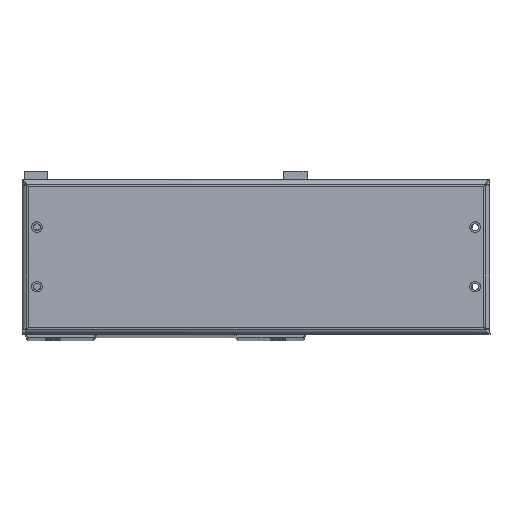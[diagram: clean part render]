
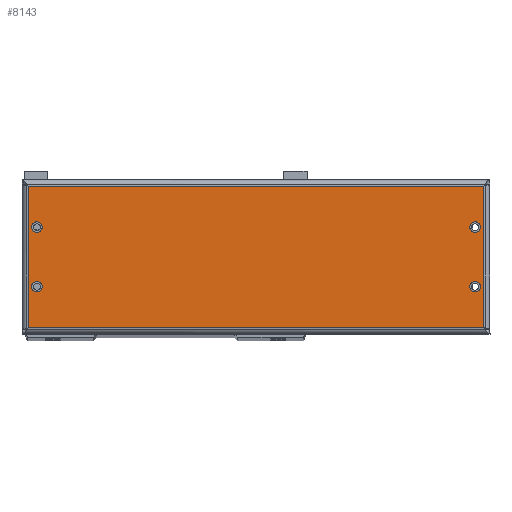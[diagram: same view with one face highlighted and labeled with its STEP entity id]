
A CAD part, top view. The second image highlights one B-rep face of the part: STEP entity #8143.
In plain terms, the highlighted planar face has unit normal (0, 0, 1) as drawn and (0, 0, -1) by its records, which use the part's own axes.
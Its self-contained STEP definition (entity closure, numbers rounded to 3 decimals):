
#681 = CARTESIAN_POINT ( 'NONE',  ( 2817.591, 251.134, -52. ) ) ;
#1110 = CARTESIAN_POINT ( 'NONE',  ( 3023.591, 251.134, -52. ) ) ;
#2294 = DIRECTION ( 'NONE',  ( 0., 0., -1. ) ) ;
#3059 = CIRCLE ( 'NONE', #20842, 2.5 ) ;
#3170 = AXIS2_PLACEMENT_3D ( 'NONE', #21371, #27139, #32349 ) ;
#3173 = ORIENTED_EDGE ( 'NONE', *, *, #12123, .F. ) ;
#3651 = CARTESIAN_POINT ( 'NONE',  ( 2812.944, 298.384, -52. ) ) ;
#3720 = EDGE_CURVE ( 'NONE', #21665, #14168, #3816, .T. ) ;
#3816 = CIRCLE ( 'NONE', #3170, 2.5 ) ;
#4063 = CARTESIAN_POINT ( 'NONE',  ( 2813.591, 298.384, -52. ) ) ;
#4303 = EDGE_LOOP ( 'NONE', ( #11577, #27996 ) ) ;
#4792 = CARTESIAN_POINT ( 'NONE',  ( 2920.591, 265.134, -52. ) ) ;
#4815 = CARTESIAN_POINT ( 'NONE',  ( 2813.591, 231.238, -52. ) ) ;
#5076 = AXIS2_PLACEMENT_3D ( 'NONE', #32313, #35192, #7673 ) ;
#5263 = ORIENTED_EDGE ( 'NONE', *, *, #18135, .F. ) ;
#5394 = CARTESIAN_POINT ( 'NONE',  ( 3023.591, 276.634, -52. ) ) ;
#5783 = EDGE_LOOP ( 'NONE', ( #23558, #6451 ) ) ;
#6117 = LINE ( 'NONE', #23179, #23961 ) ;
#6270 = CARTESIAN_POINT ( 'NONE',  ( 2817.591, 253.634, -52. ) ) ;
#6404 = DIRECTION ( 'NONE',  ( 0., -1., 0. ) ) ;
#6451 = ORIENTED_EDGE ( 'NONE', *, *, #30717, .F. ) ;
#6905 = VERTEX_POINT ( 'NONE', #6270 ) ;
#7169 = AXIS2_PLACEMENT_3D ( 'NONE', #15031, #31051, #6404 ) ;
#7568 = CARTESIAN_POINT ( 'NONE',  ( 2817.591, 281.634, -52. ) ) ;
#7673 = DIRECTION ( 'NONE',  ( 0., -1., 0. ) ) ;
#8131 = ORIENTED_EDGE ( 'NONE', *, *, #17867, .T. ) ;
#8143 = ADVANCED_FACE ( 'NONE', ( #33132, #29277, #17616, #35035, #26755 ), #29623, .T. ) ;
#8405 = EDGE_LOOP ( 'NONE', ( #31715, #3173 ) ) ;
#8921 = ORIENTED_EDGE ( 'NONE', *, *, #19634, .T. ) ;
#8961 = DIRECTION ( 'NONE',  ( 0., 0., -1. ) ) ;
#9486 = DIRECTION ( 'NONE',  ( 0., -1., 0. ) ) ;
#10400 = ORIENTED_EDGE ( 'NONE', *, *, #16458, .T. ) ;
#11218 = DIRECTION ( 'NONE',  ( 1., 0., 0. ) ) ;
#11245 = CARTESIAN_POINT ( 'NONE',  ( 3023.591, 279.134, -52. ) ) ;
#11393 = CIRCLE ( 'NONE', #5076, 2.5 ) ;
#11577 = ORIENTED_EDGE ( 'NONE', *, *, #11869, .F. ) ;
#11704 = DIRECTION ( 'NONE',  ( 0., -1., 0. ) ) ;
#11869 = EDGE_CURVE ( 'NONE', #30863, #6905, #33191, .T. ) ;
#12123 = EDGE_CURVE ( 'NONE', #14168, #21665, #11393, .T. ) ;
#12418 = CARTESIAN_POINT ( 'NONE',  ( 2817.591, 276.634, -52. ) ) ;
#12424 = ORIENTED_EDGE ( 'NONE', *, *, #20870, .F. ) ;
#12935 = CIRCLE ( 'NONE', #19227, 2.5 ) ;
#13949 = CARTESIAN_POINT ( 'NONE',  ( 3023.591, 248.634, -52. ) ) ;
#14168 = VERTEX_POINT ( 'NONE', #7568 ) ;
#14403 = VERTEX_POINT ( 'NONE', #5394 ) ;
#14742 = VERTEX_POINT ( 'NONE', #13949 ) ;
#14789 = DIRECTION ( 'NONE',  ( 0., 0., -1. ) ) ;
#15031 = CARTESIAN_POINT ( 'NONE',  ( 2817.591, 251.134, -52. ) ) ;
#15150 = VERTEX_POINT ( 'NONE', #19088 ) ;
#16458 = EDGE_CURVE ( 'NONE', #23011, #15150, #22701, .T. ) ;
#16807 = EDGE_CURVE ( 'NONE', #26709, #23011, #6117, .T. ) ;
#17109 = DIRECTION ( 'NONE',  ( 0., 0., -1. ) ) ;
#17616 = FACE_BOUND ( 'NONE', #5783, .T. ) ;
#17867 = EDGE_CURVE ( 'NONE', #33526, #26709, #27951, .T. ) ;
#18135 = EDGE_CURVE ( 'NONE', #32164, #14742, #3059, .T. ) ;
#18620 = DIRECTION ( 'NONE',  ( 0., -1., 0. ) ) ;
#18643 = LINE ( 'NONE', #4815, #18695 ) ;
#18681 = CIRCLE ( 'NONE', #30182, 2.5 ) ;
#18695 = VECTOR ( 'NONE', #26779, 1000. ) ;
#18997 = CARTESIAN_POINT ( 'NONE',  ( 3027.591, 231.884, -52. ) ) ;
#19088 = CARTESIAN_POINT ( 'NONE',  ( 2813.591, 231.884, -52. ) ) ;
#19227 = AXIS2_PLACEMENT_3D ( 'NONE', #11245, #33377, #29964 ) ;
#19454 = CARTESIAN_POINT ( 'NONE',  ( 3023.591, 279.134, -52. ) ) ;
#19634 = EDGE_CURVE ( 'NONE', #15150, #33526, #18643, .T. ) ;
#20326 = EDGE_LOOP ( 'NONE', ( #12424, #5263 ) ) ;
#20713 = AXIS2_PLACEMENT_3D ( 'NONE', #4792, #2294, #18620 ) ;
#20842 = AXIS2_PLACEMENT_3D ( 'NONE', #1110, #14789, #31307 ) ;
#20870 = EDGE_CURVE ( 'NONE', #14742, #32164, #23390, .T. ) ;
#21101 = AXIS2_PLACEMENT_3D ( 'NONE', #681, #8961, #33274 ) ;
#21371 = CARTESIAN_POINT ( 'NONE',  ( 2817.591, 279.134, -52. ) ) ;
#21665 = VERTEX_POINT ( 'NONE', #12418 ) ;
#22234 = CARTESIAN_POINT ( 'NONE',  ( 3023.591, 281.634, -52. ) ) ;
#22529 = ORIENTED_EDGE ( 'NONE', *, *, #16807, .T. ) ;
#22701 = LINE ( 'NONE', #25772, #28627 ) ;
#22815 = DIRECTION ( 'NONE',  ( 0., 0., -1. ) ) ;
#22863 = EDGE_LOOP ( 'NONE', ( #8131, #22529, #10400, #8921 ) ) ;
#23011 = VERTEX_POINT ( 'NONE', #18997 ) ;
#23024 = DIRECTION ( 'NONE',  ( 0., -1., 0. ) ) ;
#23147 = CARTESIAN_POINT ( 'NONE',  ( 3023.591, 251.134, -52. ) ) ;
#23179 = CARTESIAN_POINT ( 'NONE',  ( 3027.591, 299.031, -52. ) ) ;
#23262 = EDGE_CURVE ( 'NONE', #6905, #30863, #35307, .T. ) ;
#23390 = CIRCLE ( 'NONE', #32588, 2.5 ) ;
#23558 = ORIENTED_EDGE ( 'NONE', *, *, #23763, .F. ) ;
#23587 = CARTESIAN_POINT ( 'NONE',  ( 3027.591, 298.384, -52. ) ) ;
#23763 = EDGE_CURVE ( 'NONE', #14403, #30718, #18681, .T. ) ;
#23961 = VECTOR ( 'NONE', #23024, 1000. ) ;
#25772 = CARTESIAN_POINT ( 'NONE',  ( 3028.237, 231.884, -52. ) ) ;
#26709 = VERTEX_POINT ( 'NONE', #23587 ) ;
#26755 = FACE_OUTER_BOUND ( 'NONE', #22863, .T. ) ;
#26779 = DIRECTION ( 'NONE',  ( 0., 1., 0. ) ) ;
#27117 = CARTESIAN_POINT ( 'NONE',  ( 3023.591, 253.634, -52. ) ) ;
#27139 = DIRECTION ( 'NONE',  ( 0., 0., -1. ) ) ;
#27951 = LINE ( 'NONE', #3651, #35518 ) ;
#27977 = CARTESIAN_POINT ( 'NONE',  ( 2817.591, 248.634, -52. ) ) ;
#27996 = ORIENTED_EDGE ( 'NONE', *, *, #23262, .F. ) ;
#28627 = VECTOR ( 'NONE', #33685, 1000. ) ;
#29277 = FACE_BOUND ( 'NONE', #4303, .T. ) ;
#29623 = PLANE ( 'NONE',  #20713 ) ;
#29964 = DIRECTION ( 'NONE',  ( 0., -1., 0. ) ) ;
#30182 = AXIS2_PLACEMENT_3D ( 'NONE', #19454, #17109, #11704 ) ;
#30717 = EDGE_CURVE ( 'NONE', #30718, #14403, #12935, .T. ) ;
#30718 = VERTEX_POINT ( 'NONE', #22234 ) ;
#30863 = VERTEX_POINT ( 'NONE', #27977 ) ;
#31051 = DIRECTION ( 'NONE',  ( 0., 0., -1. ) ) ;
#31307 = DIRECTION ( 'NONE',  ( 0., -1., 0. ) ) ;
#31715 = ORIENTED_EDGE ( 'NONE', *, *, #3720, .F. ) ;
#32164 = VERTEX_POINT ( 'NONE', #27117 ) ;
#32313 = CARTESIAN_POINT ( 'NONE',  ( 2817.591, 279.134, -52. ) ) ;
#32349 = DIRECTION ( 'NONE',  ( 0., -1., 0. ) ) ;
#32588 = AXIS2_PLACEMENT_3D ( 'NONE', #23147, #22815, #9486 ) ;
#33132 = FACE_BOUND ( 'NONE', #8405, .T. ) ;
#33191 = CIRCLE ( 'NONE', #21101, 2.5 ) ;
#33274 = DIRECTION ( 'NONE',  ( 0., -1., 0. ) ) ;
#33377 = DIRECTION ( 'NONE',  ( 0., 0., -1. ) ) ;
#33526 = VERTEX_POINT ( 'NONE', #4063 ) ;
#33685 = DIRECTION ( 'NONE',  ( -1., 0., 0. ) ) ;
#35035 = FACE_BOUND ( 'NONE', #20326, .T. ) ;
#35192 = DIRECTION ( 'NONE',  ( 0., 0., -1. ) ) ;
#35307 = CIRCLE ( 'NONE', #7169, 2.5 ) ;
#35518 = VECTOR ( 'NONE', #11218, 1000. ) ;
